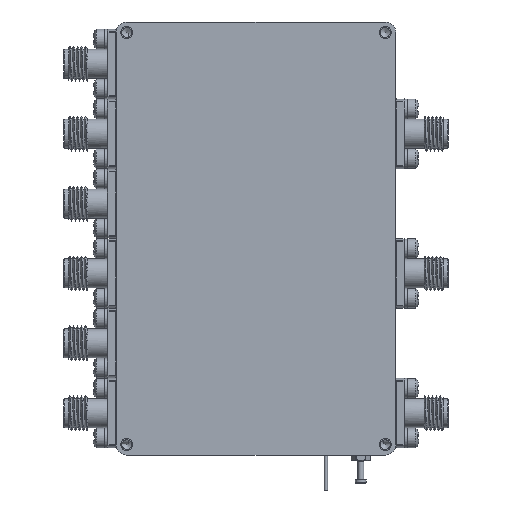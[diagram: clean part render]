
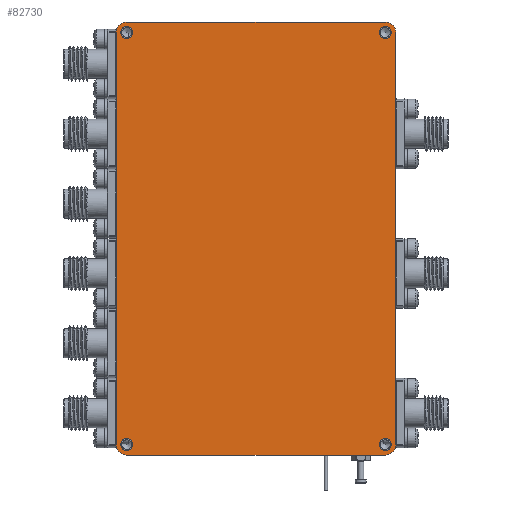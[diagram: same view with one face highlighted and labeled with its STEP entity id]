
A CAD part, front view. The second image highlights one B-rep face of the part: STEP entity #82730.
In plain terms, the highlighted planar face has unit normal (0, -1, 0).
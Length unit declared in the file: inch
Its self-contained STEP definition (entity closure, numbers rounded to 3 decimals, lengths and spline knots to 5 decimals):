
#371 = AXIS2_PLACEMENT_3D ( 'NONE', #14335, #29060, #62000 ) ;
#1695 = CARTESIAN_POINT ( 'NONE',  ( 1., -0.2, -1.475 ) ) ;
#3125 = VECTOR ( 'NONE', #26915, 39.37008 ) ;
#3163 = DIRECTION ( 'NONE',  ( 0., -1., 0. ) ) ;
#3419 = EDGE_CURVE ( 'NONE', #18892, #99701, #14983, .T. ) ;
#3590 = CARTESIAN_POINT ( 'NONE',  ( -0.925, -0.2, 1.475 ) ) ;
#3602 = FACE_OUTER_BOUND ( 'NONE', #80643, .T. ) ;
#5744 = CIRCLE ( 'NONE', #34231, 0.075 ) ;
#6187 = CIRCLE ( 'NONE', #32982, 0.075 ) ;
#6225 = VERTEX_POINT ( 'NONE', #35477 ) ;
#7738 = CARTESIAN_POINT ( 'NONE',  ( -0.925, -0.2, -1.475 ) ) ;
#9390 = CARTESIAN_POINT ( 'NONE',  ( -1., -0.2, -1.475 ) ) ;
#9743 = DIRECTION ( 'NONE',  ( 0., 0., -1. ) ) ;
#11152 = ORIENTED_EDGE ( 'NONE', *, *, #21317, .F. ) ;
#11371 = EDGE_CURVE ( 'NONE', #23191, #12298, #5744, .T. ) ;
#12298 = VERTEX_POINT ( 'NONE', #67433 ) ;
#12359 = EDGE_CURVE ( 'NONE', #22698, #22698, #34437, .T. ) ;
#12850 = CIRCLE ( 'NONE', #99884, 0.043 ) ;
#14335 = CARTESIAN_POINT ( 'NONE',  ( -0.925, -0.2, -1.475 ) ) ;
#14983 = CIRCLE ( 'NONE', #26714, 0.075 ) ;
#15606 = DIRECTION ( 'NONE',  ( 0., 1., 0. ) ) ;
#15832 = CARTESIAN_POINT ( 'NONE',  ( -0.925, -0.2, -1.55 ) ) ;
#15986 = AXIS2_PLACEMENT_3D ( 'NONE', #93120, #92611, #77892 ) ;
#18873 = ORIENTED_EDGE ( 'NONE', *, *, #38432, .F. ) ;
#18892 = VERTEX_POINT ( 'NONE', #15832 ) ;
#21317 = EDGE_CURVE ( 'NONE', #39969, #64753, #32953, .T. ) ;
#21682 = EDGE_CURVE ( 'NONE', #49345, #49345, #54108, .T. ) ;
#22698 = VERTEX_POINT ( 'NONE', #79726 ) ;
#23074 = ORIENTED_EDGE ( 'NONE', *, *, #88980, .F. ) ;
#23191 = VERTEX_POINT ( 'NONE', #64306 ) ;
#23859 = CARTESIAN_POINT ( 'NONE',  ( 0.925, -0.2, 1.55 ) ) ;
#24033 = ORIENTED_EDGE ( 'NONE', *, *, #11371, .F. ) ;
#25088 = EDGE_CURVE ( 'NONE', #99701, #91662, #73803, .T. ) ;
#25515 = CARTESIAN_POINT ( 'NONE',  ( 0.925, -0.2, -1.475 ) ) ;
#25791 = CARTESIAN_POINT ( 'NONE',  ( 0.925, -0.2, -1.475 ) ) ;
#26107 = CARTESIAN_POINT ( 'NONE',  ( 1., -0.2, 1.475 ) ) ;
#26714 = AXIS2_PLACEMENT_3D ( 'NONE', #7738, #15606, #46598 ) ;
#26915 = DIRECTION ( 'NONE',  ( 0., 0., -1. ) ) ;
#27340 = VERTEX_POINT ( 'NONE', #88621 ) ;
#29060 = DIRECTION ( 'NONE',  ( 0., 1., 0. ) ) ;
#31997 = CARTESIAN_POINT ( 'NONE',  ( -0.925, -0.2, -1.475 ) ) ;
#32953 = CIRCLE ( 'NONE', #74726, 0.075 ) ;
#32982 = AXIS2_PLACEMENT_3D ( 'NONE', #3590, #52361, #91135 ) ;
#34231 = AXIS2_PLACEMENT_3D ( 'NONE', #25515, #81536, #9743 ) ;
#34437 = CIRCLE ( 'NONE', #15986, 0.043 ) ;
#35099 = DIRECTION ( 'NONE',  ( 0., 0., 1. ) ) ;
#35477 = CARTESIAN_POINT ( 'NONE',  ( -0.925, -0.2, 1.55 ) ) ;
#36565 = EDGE_LOOP ( 'NONE', ( #41866 ) ) ;
#36748 = CARTESIAN_POINT ( 'NONE',  ( -0.925, -0.2, 1.475 ) ) ;
#38432 = EDGE_CURVE ( 'NONE', #91662, #6225, #6187, .T. ) ;
#38667 = EDGE_LOOP ( 'NONE', ( #88803 ) ) ;
#39109 = EDGE_CURVE ( 'NONE', #6225, #39969, #101014, .T. ) ;
#39969 = VERTEX_POINT ( 'NONE', #23859 ) ;
#41866 = ORIENTED_EDGE ( 'NONE', *, *, #21682, .F. ) ;
#43563 = DIRECTION ( 'NONE',  ( -1., 0., 0. ) ) ;
#44344 = ORIENTED_EDGE ( 'NONE', *, *, #12359, .F. ) ;
#46598 = DIRECTION ( 'NONE',  ( 0., 0., 1. ) ) ;
#47231 = ORIENTED_EDGE ( 'NONE', *, *, #73814, .F. ) ;
#49345 = VERTEX_POINT ( 'NONE', #90191 ) ;
#52361 = DIRECTION ( 'NONE',  ( 0., 1., 0. ) ) ;
#52377 = FACE_BOUND ( 'NONE', #55038, .T. ) ;
#52946 = VECTOR ( 'NONE', #43563, 39.37008 ) ;
#53223 = CARTESIAN_POINT ( 'NONE',  ( -1., -0.2, -1.475 ) ) ;
#54108 = CIRCLE ( 'NONE', #55769, 0.043 ) ;
#54285 = CARTESIAN_POINT ( 'NONE',  ( -0.925, -0.2, 1.432 ) ) ;
#55038 = EDGE_LOOP ( 'NONE', ( #23074 ) ) ;
#55515 = ORIENTED_EDGE ( 'NONE', *, *, #39109, .F. ) ;
#55630 = DIRECTION ( 'NONE',  ( 0., -1., 0. ) ) ;
#55769 = AXIS2_PLACEMENT_3D ( 'NONE', #31997, #55630, #66373 ) ;
#56160 = DIRECTION ( 'NONE',  ( 0., 1., 0. ) ) ;
#58799 = DIRECTION ( 'NONE',  ( 0., -1., 0. ) ) ;
#61981 = EDGE_CURVE ( 'NONE', #27340, #27340, #12850, .T. ) ;
#62000 = DIRECTION ( 'NONE',  ( 0., 0., 1. ) ) ;
#62598 = VERTEX_POINT ( 'NONE', #54285 ) ;
#63924 = CARTESIAN_POINT ( 'NONE',  ( 0.925, -0.2, 1.475 ) ) ;
#64306 = CARTESIAN_POINT ( 'NONE',  ( 1., -0.2, -1.475 ) ) ;
#64753 = VERTEX_POINT ( 'NONE', #26107 ) ;
#66159 = LINE ( 'NONE', #1695, #3125 ) ;
#66353 = VECTOR ( 'NONE', #99498, 39.37008 ) ;
#66373 = DIRECTION ( 'NONE',  ( 0., 0., -1. ) ) ;
#67433 = CARTESIAN_POINT ( 'NONE',  ( 0.925, -0.2, -1.55 ) ) ;
#68047 = FACE_BOUND ( 'NONE', #36565, .T. ) ;
#72068 = EDGE_CURVE ( 'NONE', #12298, #18892, #92268, .T. ) ;
#73803 = LINE ( 'NONE', #9390, #98037 ) ;
#73814 = EDGE_CURVE ( 'NONE', #64753, #23191, #66159, .T. ) ;
#74455 = AXIS2_PLACEMENT_3D ( 'NONE', #36748, #58799, #100612 ) ;
#74726 = AXIS2_PLACEMENT_3D ( 'NONE', #63924, #56160, #89610 ) ;
#75377 = FACE_BOUND ( 'NONE', #38667, .T. ) ;
#77722 = ORIENTED_EDGE ( 'NONE', *, *, #72068, .F. ) ;
#77771 = CIRCLE ( 'NONE', #74455, 0.043 ) ;
#77892 = DIRECTION ( 'NONE',  ( 0., 0., -1. ) ) ;
#79726 = CARTESIAN_POINT ( 'NONE',  ( 0.925, -0.2, 1.432 ) ) ;
#80643 = EDGE_LOOP ( 'NONE', ( #94613, #77722, #24033, #47231, #11152, #55515, #18873, #85627 ) ) ;
#80756 = DIRECTION ( 'NONE',  ( 0., 0., -1. ) ) ;
#81536 = DIRECTION ( 'NONE',  ( 0., 1., 0. ) ) ;
#82730 = ADVANCED_FACE ( 'NONE', ( #75377, #68047, #52377, #84377, #3602 ), #100739, .F. ) ;
#83856 = CARTESIAN_POINT ( 'NONE',  ( -0.925, -0.2, 1.55 ) ) ;
#84377 = FACE_BOUND ( 'NONE', #95834, .T. ) ;
#85627 = ORIENTED_EDGE ( 'NONE', *, *, #25088, .F. ) ;
#88621 = CARTESIAN_POINT ( 'NONE',  ( 0.925, -0.2, -1.518 ) ) ;
#88803 = ORIENTED_EDGE ( 'NONE', *, *, #61981, .F. ) ;
#88980 = EDGE_CURVE ( 'NONE', #62598, #62598, #77771, .T. ) ;
#89610 = DIRECTION ( 'NONE',  ( 0., 0., 1. ) ) ;
#90191 = CARTESIAN_POINT ( 'NONE',  ( -0.925, -0.2, -1.518 ) ) ;
#90550 = CARTESIAN_POINT ( 'NONE',  ( -1., -0.2, 1.475 ) ) ;
#91135 = DIRECTION ( 'NONE',  ( 0., 0., 1. ) ) ;
#91662 = VERTEX_POINT ( 'NONE', #90550 ) ;
#92268 = LINE ( 'NONE', #99579, #52946 ) ;
#92611 = DIRECTION ( 'NONE',  ( 0., -1., 0. ) ) ;
#93120 = CARTESIAN_POINT ( 'NONE',  ( 0.925, -0.2, 1.475 ) ) ;
#94613 = ORIENTED_EDGE ( 'NONE', *, *, #3419, .F. ) ;
#95834 = EDGE_LOOP ( 'NONE', ( #44344 ) ) ;
#98037 = VECTOR ( 'NONE', #35099, 39.37008 ) ;
#99498 = DIRECTION ( 'NONE',  ( 1., 0., 0. ) ) ;
#99579 = CARTESIAN_POINT ( 'NONE',  ( -0.925, -0.2, -1.55 ) ) ;
#99701 = VERTEX_POINT ( 'NONE', #53223 ) ;
#99884 = AXIS2_PLACEMENT_3D ( 'NONE', #25791, #3163, #80756 ) ;
#100612 = DIRECTION ( 'NONE',  ( 0., 0., -1. ) ) ;
#100739 = PLANE ( 'NONE',  #371 ) ;
#101014 = LINE ( 'NONE', #83856, #66353 ) ;
